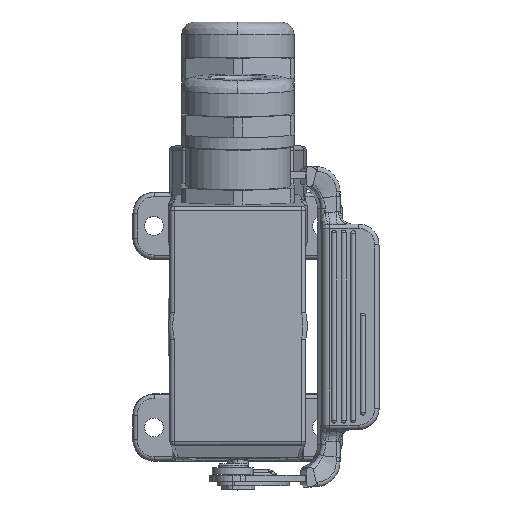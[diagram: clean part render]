
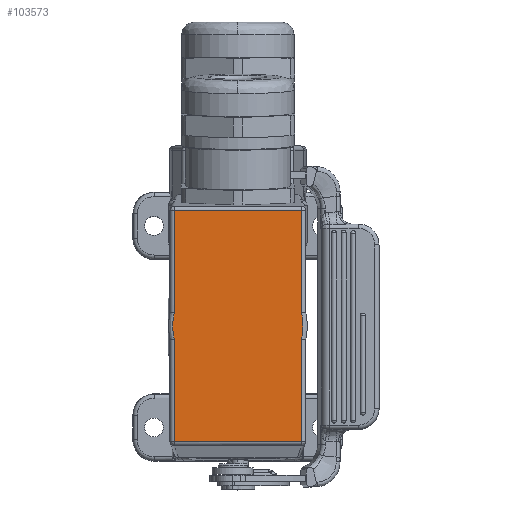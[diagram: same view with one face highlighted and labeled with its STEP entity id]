
A CAD part, top view. The second image highlights one B-rep face of the part: STEP entity #103573.
In plain terms, the highlighted planar face has unit normal (0, 0, 1).
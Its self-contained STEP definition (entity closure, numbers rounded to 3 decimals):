
#249 = DIRECTION ( 'NONE',  ( -1., 0., 0. ) ) ;
#1961 = ORIENTED_EDGE ( 'NONE', *, *, #11759, .F. ) ;
#2517 = ORIENTED_EDGE ( 'NONE', *, *, #128065, .F. ) ;
#2576 = VECTOR ( 'NONE', #85026, 1000. ) ;
#2680 = VECTOR ( 'NONE', #122986, 1000. ) ;
#10899 = DIRECTION ( 'NONE',  ( 0., 0., -1. ) ) ;
#11566 = CARTESIAN_POINT ( 'NONE',  ( 32.274, 58.291, 129.075 ) ) ;
#11759 = EDGE_CURVE ( 'NONE', #57366, #32219, #32737, .T. ) ;
#11760 = CARTESIAN_POINT ( 'NONE',  ( 60.84, 57.851, 129.075 ) ) ;
#11950 = CARTESIAN_POINT ( 'NONE',  ( 36.524, 27.509, 129.075 ) ) ;
#12354 = LINE ( 'NONE', #91846, #2680 ) ;
#19364 = CARTESIAN_POINT ( 'NONE',  ( 36.524, 57.851, 129.075 ) ) ;
#20208 = DIRECTION ( 'NONE',  ( 1., 0., 0. ) ) ;
#22186 = PLANE ( 'NONE',  #117674 ) ;
#23905 = VECTOR ( 'NONE', #249, 1000. ) ;
#26085 = LINE ( 'NONE', #116190, #102573 ) ;
#27522 = VERTEX_POINT ( 'NONE', #11760 ) ;
#29179 = CARTESIAN_POINT ( 'NONE',  ( 5.856, 57.851, 129.075 ) ) ;
#30112 = EDGE_CURVE ( 'NONE', #106570, #27522, #110278, .T. ) ;
#30149 = CARTESIAN_POINT ( 'NONE',  ( 60.84, 26.994, 129.075 ) ) ;
#32219 = VERTEX_POINT ( 'NONE', #11950 ) ;
#32737 = LINE ( 'NONE', #80421, #23905 ) ;
#34847 = CARTESIAN_POINT ( 'NONE',  ( 5.856, 27.509, 129.075 ) ) ;
#37086 = CARTESIAN_POINT ( 'NONE',  ( 33.348, 27.509, 129.075 ) ) ;
#38658 = VERTEX_POINT ( 'NONE', #131181 ) ;
#41472 = ORIENTED_EDGE ( 'NONE', *, *, #113706, .F. ) ;
#44677 = CARTESIAN_POINT ( 'NONE',  ( 5.856, 42.68, 129.075 ) ) ;
#45094 = DIRECTION ( 'NONE',  ( -1., 0., 0. ) ) ;
#45343 = CARTESIAN_POINT ( 'NONE',  ( 32.274, 27.069, 129.075 ) ) ;
#48718 = EDGE_CURVE ( 'NONE', #77108, #112776, #94971, .T. ) ;
#50711 = VECTOR ( 'NONE', #20208, 1000. ) ;
#52938 = EDGE_CURVE ( 'NONE', #32219, #77233, #66851, .T. ) ;
#56560 = CARTESIAN_POINT ( 'NONE',  ( 36.524, 27.509, 129.075 ) ) ;
#56641 = CARTESIAN_POINT ( 'NONE',  ( 60.84, 27.509, 129.075 ) ) ;
#57366 = VERTEX_POINT ( 'NONE', #56641 ) ;
#62597 = CARTESIAN_POINT ( 'NONE',  ( 34.422, 58.291, 129.075 ) ) ;
#62605 = DIRECTION ( 'NONE',  ( 0., -1., 0. ) ) ;
#64881 = EDGE_CURVE ( 'NONE', #38658, #106570, #126261, .T. ) ;
#65834 = CARTESIAN_POINT ( 'NONE',  ( 34.422, 27.069, 129.075 ) ) ;
#66851 =( BOUNDED_CURVE ( )  B_SPLINE_CURVE ( 3, ( #56560, #65834, #45343, #94990 ),
 .UNSPECIFIED., .F., .T. ) 
 B_SPLINE_CURVE_WITH_KNOTS ( ( 4, 4 ),
 ( 0., 1. ),
 .UNSPECIFIED. ) 
 CURVE ( )  GEOMETRIC_REPRESENTATION_ITEM ( )  RATIONAL_B_SPLINE_CURVE ( ( 1., 0.986, 0.986, 1. ) ) 
 REPRESENTATION_ITEM ( '' )  );
#72222 = CARTESIAN_POINT ( 'NONE',  ( 30.172, 27.509, 129.075 ) ) ;
#77108 = VERTEX_POINT ( 'NONE', #29179 ) ;
#77233 = VERTEX_POINT ( 'NONE', #72222 ) ;
#80421 = CARTESIAN_POINT ( 'NONE',  ( 33.348, 27.509, 129.075 ) ) ;
#80624 = EDGE_CURVE ( 'NONE', #77233, #112776, #84801, .T. ) ;
#84801 = LINE ( 'NONE', #37086, #118337 ) ;
#85026 = DIRECTION ( 'NONE',  ( 0., -1., 0. ) ) ;
#87901 = ORIENTED_EDGE ( 'NONE', *, *, #80624, .F. ) ;
#91846 = CARTESIAN_POINT ( 'NONE',  ( 60.84, 42.68, 129.075 ) ) ;
#92384 = CARTESIAN_POINT ( 'NONE',  ( 36.524, 57.851, 129.075 ) ) ;
#93603 = ORIENTED_EDGE ( 'NONE', *, *, #48718, .T. ) ;
#94971 = LINE ( 'NONE', #44677, #2576 ) ;
#94990 = CARTESIAN_POINT ( 'NONE',  ( 30.172, 27.509, 129.075 ) ) ;
#102294 = FACE_OUTER_BOUND ( 'NONE', #122306, .T. ) ;
#102573 = VECTOR ( 'NONE', #126779, 1000. ) ;
#103573 = ADVANCED_FACE ( 'NONE', ( #102294 ), #22186, .F. ) ;
#106570 = VERTEX_POINT ( 'NONE', #19364 ) ;
#110278 = LINE ( 'NONE', #130210, #50711 ) ;
#112641 = ORIENTED_EDGE ( 'NONE', *, *, #52938, .F. ) ;
#112776 = VERTEX_POINT ( 'NONE', #34847 ) ;
#113572 = CARTESIAN_POINT ( 'NONE',  ( 30.172, 57.851, 129.075 ) ) ;
#113706 = EDGE_CURVE ( 'NONE', #27522, #57366, #12354, .T. ) ;
#114925 = ORIENTED_EDGE ( 'NONE', *, *, #30112, .F. ) ;
#116190 = CARTESIAN_POINT ( 'NONE',  ( 33.348, 57.851, 129.075 ) ) ;
#117674 = AXIS2_PLACEMENT_3D ( 'NONE', #30149, #10899, #62605 ) ;
#118337 = VECTOR ( 'NONE', #45094, 1000. ) ;
#122306 = EDGE_LOOP ( 'NONE', ( #112641, #1961, #41472, #114925, #123253, #2517, #93603, #87901 ) ) ;
#122986 = DIRECTION ( 'NONE',  ( 0., -1., 0. ) ) ;
#123253 = ORIENTED_EDGE ( 'NONE', *, *, #64881, .F. ) ;
#126261 =( BOUNDED_CURVE ( )  B_SPLINE_CURVE ( 3, ( #113572, #11566, #62597, #92384 ),
 .UNSPECIFIED., .F., .F. ) 
 B_SPLINE_CURVE_WITH_KNOTS ( ( 4, 4 ),
 ( 0., 1. ),
 .UNSPECIFIED. ) 
 CURVE ( )  GEOMETRIC_REPRESENTATION_ITEM ( )  RATIONAL_B_SPLINE_CURVE ( ( 1., 0.986, 0.986, 1. ) ) 
 REPRESENTATION_ITEM ( '' )  );
#126779 = DIRECTION ( 'NONE',  ( 1., 0., 0. ) ) ;
#128065 = EDGE_CURVE ( 'NONE', #77108, #38658, #26085, .T. ) ;
#130210 = CARTESIAN_POINT ( 'NONE',  ( 33.348, 57.851, 129.075 ) ) ;
#131181 = CARTESIAN_POINT ( 'NONE',  ( 30.172, 57.851, 129.075 ) ) ;
